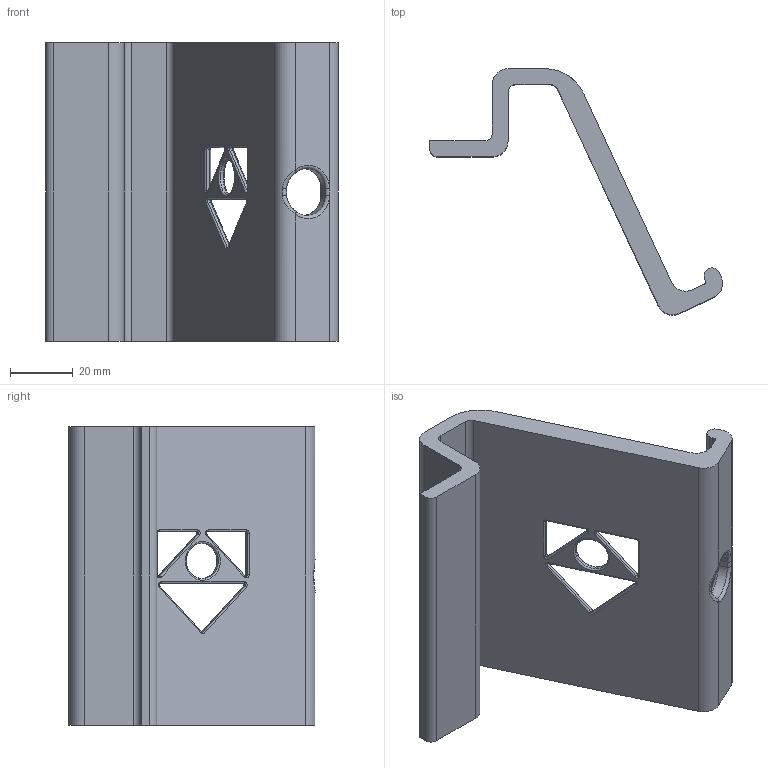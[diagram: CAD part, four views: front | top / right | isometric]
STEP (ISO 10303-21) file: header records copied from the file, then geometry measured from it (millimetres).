
FILE_DESCRIPTION(/* description */ (''),/* implementation_level */ '2;1');
FILE_NAME(/* name */ 'Phone Holder Desk Riser.step',/* time_stamp */ '2024-02-05T17:43:51+01:00',/* author */ (''),/* organization */ (''),/* preprocessor_version */ 'ST-DEVELOPER v20',/* originating_system */ 'Autodesk Translation Framework v12.14.0.127',/* authorisation */ '');
FILE_SCHEMA (('AUTOMOTIVE_DESIGN { 1 0 10303 214 3 1 1 }'));
Length unit declared in the file: millimetre
Products named in the file (1): Phone Holder Desk Riser
Bounding box: 93.25 x 78.35 x 95 mm (x, y, z)
Volume: 57420.3 mm3; surface area: 33118.7 mm2
Topology: 1 solids, 1 shells, 136 faces, 338 edges, 200 vertices
Faces by surface type: cylinder 60, plane 32, torus 30, bspline 14
Full cylindrical faces by diameter (mm): 11.29 x1
Entity records: 4455 total; most frequent: CARTESIAN_POINT 1185, DIRECTION 704, ORIENTED_EDGE 672, EDGE_CURVE 336, AXIS2_PLACEMENT_3D 279, VERTEX_POINT 200, CIRCLE 156, LINE 146
